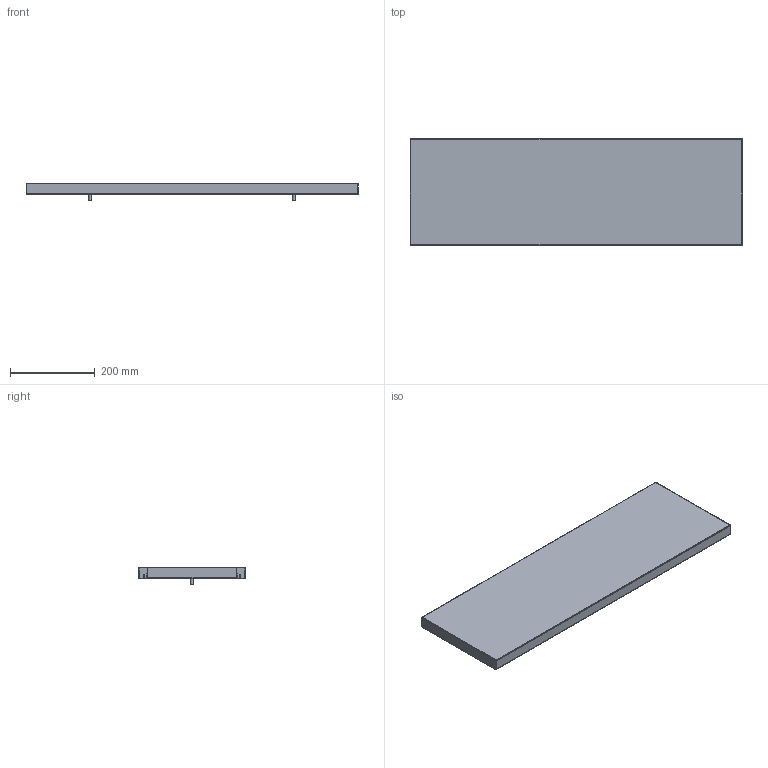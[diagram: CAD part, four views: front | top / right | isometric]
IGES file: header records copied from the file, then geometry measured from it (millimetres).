
Start section: SolidWorks IGES file using NURBS representation for surfaces
Global section: file name: Z:\Modele 3D_WWW\_CAMELEON\PUSZKI WWW\CAMELEON-CANOPY_C_780_8556_8557\CANOPY_C_780_8556_8557.IGS; native system: SolidWorks 2021; preprocessor: SolidWorks 2021; author: gabriela.tworek; date: 220301.105417; units: millimetre
Bounding box: 781.8 x 250 x 42 mm (x, y, z)
Surface area: 955067.8 mm2 (no closed solid volume)
Topology: 0 solids, 0 shells, 136 faces, 586 edges, 584 vertices
Faces by surface type: bspline 136
